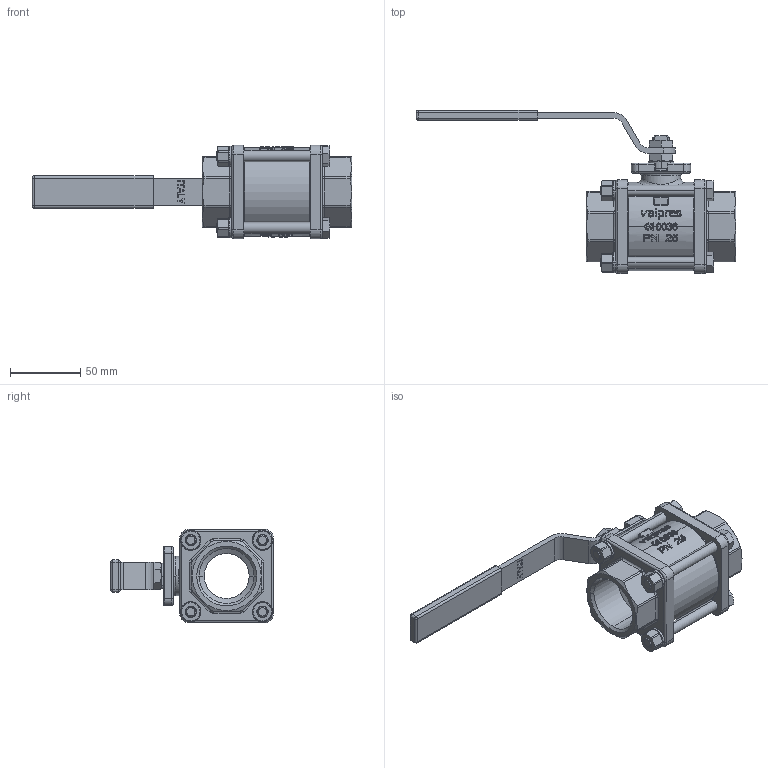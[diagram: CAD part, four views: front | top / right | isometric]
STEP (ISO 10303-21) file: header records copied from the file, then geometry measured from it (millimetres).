
FILE_DESCRIPTION (( 'STEP AP203' ), '1' );
FILE_NAME ('71000007.STEP', '2010-03-09T13:47:07', ( '.' ), ( '.' ), 'SwSTEP 2.0', 'SolidWorks 2008', '' );
FILE_SCHEMA (( 'CONFIG_CONTROL_DESIGN' ));
Products named in the file (1): 71000007
Bounding box: 227.2 x 115.75 x 66.5 mm (x, y, z)
Volume: 266975.5 mm3; surface area: 76205.5 mm2
Topology: 2 solids, 2 shells, 1253 faces, 3186 edges, 2004 vertices
Faces by surface type: plane 385, bspline 377, cylinder 317, cone 172, torus 2
Entity records: 94643 total; most frequent: CARTESIAN_POINT 67086, ORIENTED_EDGE 6348, DIRECTION 4772, EDGE_CURVE 3174, VERTEX_POINT 2004, AXIS2_PLACEMENT_3D 1752, EDGE_LOOP 1366, VECTOR 1268
